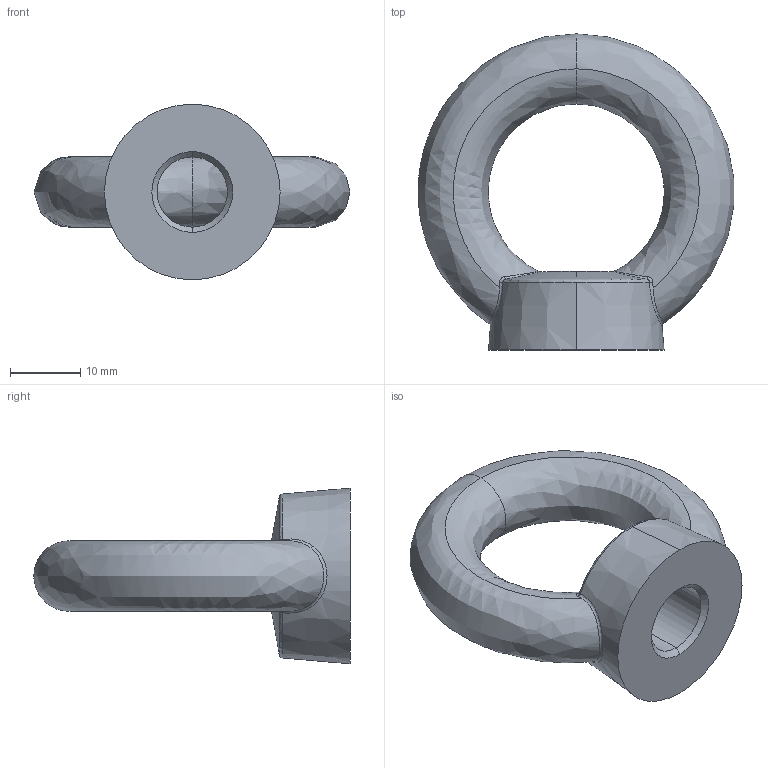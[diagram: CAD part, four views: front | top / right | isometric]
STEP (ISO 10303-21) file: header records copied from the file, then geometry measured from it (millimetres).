
FILE_DESCRIPTION (( 'STEP AP203' ), '1' );
FILE_NAME ('P4041.100-ZP.step', '2023-04-16T07:59:16', ( '' ), ( '' ), 'SwSTEP 2.0', 'SolidWorks 2019', '' );
FILE_SCHEMA (( 'CONFIG_CONTROL_DESIGN' ));
Length unit declared in the file: millimetre
Products named in the file (1): P4041.100-ZP
Bounding box: 44.92 x 44.99 x 25 mm (x, y, z)
Volume: 10826 mm3; surface area: 4466.1 mm2
Topology: 1 solids, 1 shells, 24 faces, 59 edges, 34 vertices
Faces by surface type: bspline 12, cone 6, torus 3, cylinder 2, plane 1
Entity records: 3021 total; most frequent: CARTESIAN_POINT 2456, ORIENTED_EDGE 118, DIRECTION 84, EDGE_CURVE 59, AXIS2_PLACEMENT_3D 38, VERTEX_POINT 34, EDGE_LOOP 25, CIRCLE 25
